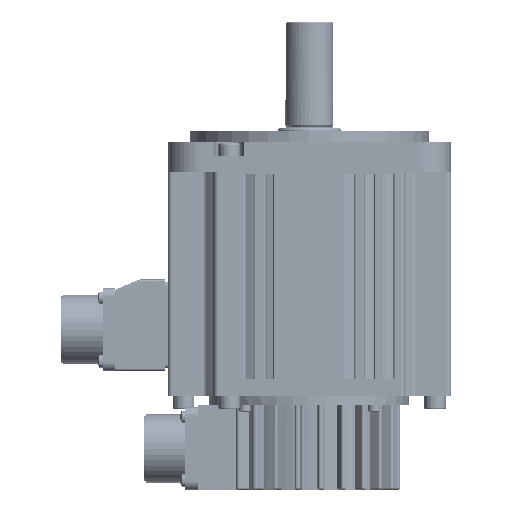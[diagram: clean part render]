
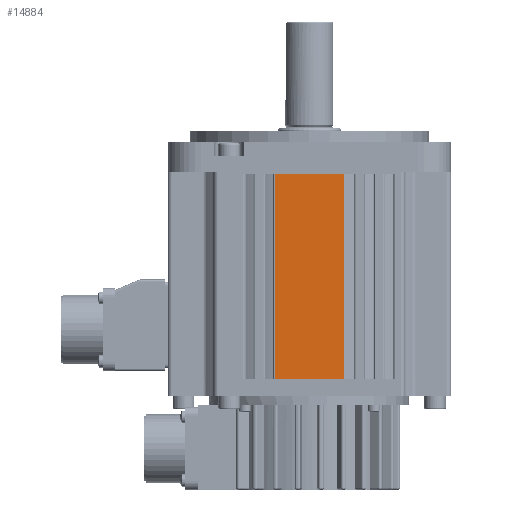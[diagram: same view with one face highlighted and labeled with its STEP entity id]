
A CAD part, front view. The second image highlights one B-rep face of the part: STEP entity #14884.
In plain terms, the highlighted planar face has unit normal (0, -1, 0) as drawn and (0, 0, -1) by its records, which use the part's own axes.
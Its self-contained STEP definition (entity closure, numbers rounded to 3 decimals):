
#8778=DIRECTION('',(-1.,0.,0.));
#8779=VECTOR('',#8778,31.8);
#8780=CARTESIAN_POINT('',(15.9,0.,-65.));
#8781=LINE('',#8780,#8779);
#9883=DIRECTION('',(-1.,0.,0.));
#9884=VECTOR('',#9883,31.8);
#9885=CARTESIAN_POINT('',(15.9,94.,-65.));
#9886=LINE('',#9885,#9884);
#10826=DIRECTION('',(0.,-1.,0.));
#10827=VECTOR('',#10826,94.);
#10828=CARTESIAN_POINT('',(15.9,94.,-65.));
#10829=LINE('',#10828,#10827);
#10830=DIRECTION('',(0.,1.,0.));
#10831=VECTOR('',#10830,94.);
#10832=CARTESIAN_POINT('',(-15.9,0.,-65.));
#10833=LINE('',#10832,#10831);
#11858=CARTESIAN_POINT('',(15.9,0.,-65.));
#11860=VERTEX_POINT('',#11858);
#11864=CARTESIAN_POINT('',(15.9,94.,-65.));
#11865=VERTEX_POINT('',#11864);
#11866=CARTESIAN_POINT('',(-15.9,94.,-65.));
#11868=VERTEX_POINT('',#11866);
#11872=CARTESIAN_POINT('',(-15.9,0.,-65.));
#11873=VERTEX_POINT('',#11872);
#14871=CARTESIAN_POINT('',(43.9,0.,-65.));
#14872=DIRECTION('',(0.,0.,-1.));
#14873=DIRECTION('',(-1.,0.,0.));
#14874=AXIS2_PLACEMENT_3D('',#14871,#14872,#14873);
#14875=PLANE('',#14874);
#14877=ORIENTED_EDGE('',*,*,#14876,.F.);
#14878=ORIENTED_EDGE('',*,*,#13270,.T.);
#14880=ORIENTED_EDGE('',*,*,#14879,.F.);
#14881=ORIENTED_EDGE('',*,*,#12472,.F.);
#14882=EDGE_LOOP('',(#14877,#14878,#14880,#14881));
#14883=FACE_OUTER_BOUND('',#14882,.F.);
#14884=ADVANCED_FACE('',(#14883),#14875,.T.);
#12472=EDGE_CURVE('',#11860,#11873,#8781,.T.);
#13270=EDGE_CURVE('',#11865,#11868,#9886,.T.);
#14876=EDGE_CURVE('',#11865,#11860,#10829,.T.);
#14879=EDGE_CURVE('',#11873,#11868,#10833,.T.);
